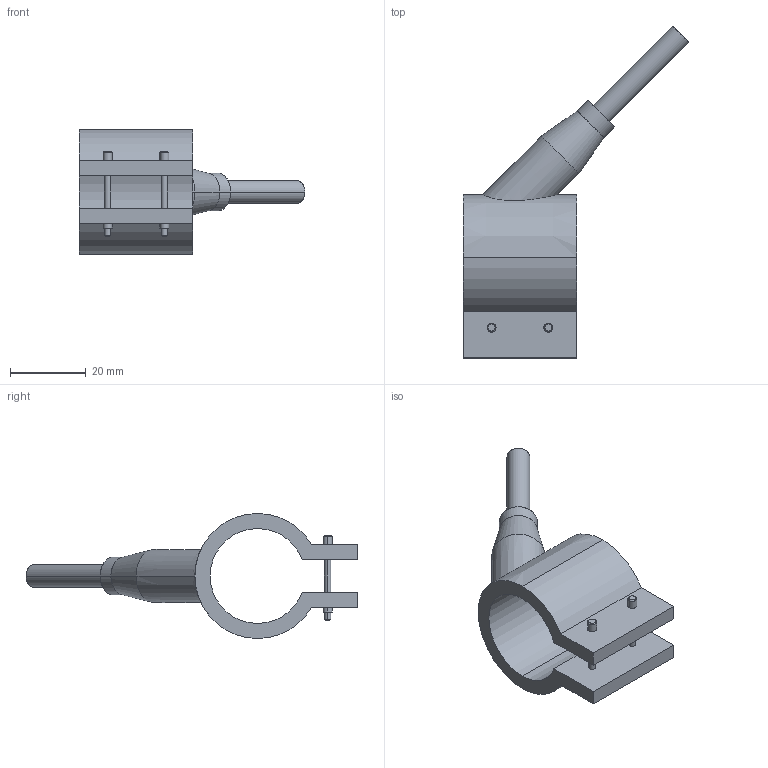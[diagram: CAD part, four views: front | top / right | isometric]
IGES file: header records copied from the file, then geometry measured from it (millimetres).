
Start section: START RECORD GO HERE.
Global section: file name: 29025030.igs; native system: DASSAULT SYSTEMES CATIA V5 R20 - www.3ds.com; preprocessor: CATIA Version 5 Release 20 ; author: Utente; organization: NB04-ASUS; date: 20210327.100853; units: millimetre
Bounding box: 59.55 x 87.55 x 33 mm (x, y, z)
Surface area: 9223.6 mm2 (no closed solid volume)
Topology: 0 solids, 0 shells, 54 faces, 246 edges, 246 vertices
Faces by surface type: revolution 38, plane 16
